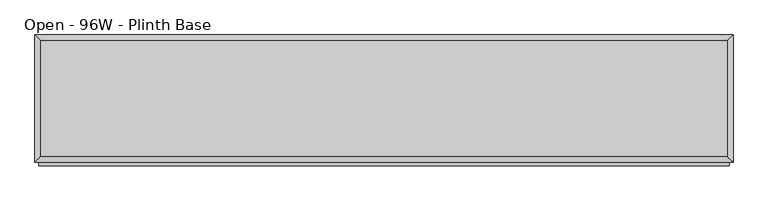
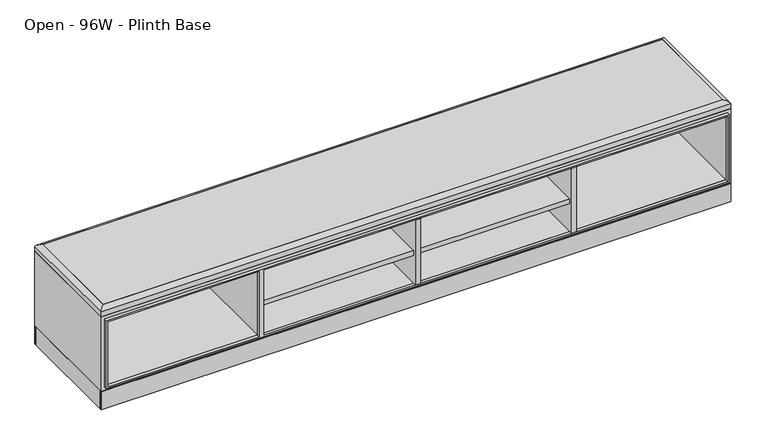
"""IFC4 building model written with IfcOpenShell, lengths in millimetres: furniture geometry, Steelcase Coalesse - Exponents - Seating - Bench : Open - 96W - Plinth Base."""

from ifc_helpers import new_model, si_unit, frame, origin, place, context, project, spatial, polyline, ellipse_curve, outline, extrude, faceted_brep, source, transform, mapped, element, save
from ifc_brep_helpers import plane_surface, cylinder_surface, advanced_brep


def open_96w_plinth_base_e9569392(model_context):
    return source(origin(), model_context, "Body", "SolidModel", [
        extrude(outline(polyline([(1209.548, 12.7), (623.824, 12.7), (623.824, 438.15), (1209.548, 438.15), (1209.548, 12.7)])), frame((0.0, 0.0, 215.9), z_axis=(0.0, 0.0, 1.0), x_axis=(1.0, 0.0, 0.0)), (0.0, 0.0, 1.0), 19.05),
        advanced_brep(
        [(0.0, 12.7, 406.6283237), (0.0, 12.7, 387.35), (2438.4, 12.7, 387.35), (2438.4, 12.7, 406.6283237), (2438.4, 457.2, 406.6283237), (2438.4, 457.2, 387.35), (0.0, 457.2, 387.35), (0.0, 457.2, 406.6283237), (2419.35, 31.75, 406.6283237), (2419.35, 438.15, 406.6283237), (19.05, 438.15, 406.6283237), (19.05, 31.75, 406.6283237), (2419.35, 438.15, 419.0696271), (2419.35, 31.75, 419.0696271), (19.05, 31.75, 419.0696271), (19.05, 438.15, 419.0696271)],
        [
            (0, 1),
            (1, 2),
            (2, 3),
            (3, 0),
            (4, 5),
            (5, 6),
            (6, 7),
            (7, 4),
            (8, 9),
            (9, 10),
            (10, 11),
            (11, 8),
            (0, 7),
            (6, 1),
            (5, 2),
            (4, 3),
            (12, 9),
            (8, 13),
            (13, 12),
            (13, 3, ellipse_curve(frame((2417.7973666, 33.3026334, 395.8870134), z_axis=(0.7071067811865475, 0.7071067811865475, 0.0), x_axis=(-0.7071067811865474, 0.7071067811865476, 0.0)), 32.8586138, 23.2345486)),
            (4, 12, ellipse_curve(frame((2417.7973666, 436.5973666, 395.8870134), z_axis=(0.7071067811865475, -0.7071067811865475, 0.0), x_axis=(0.7071067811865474, 0.7071067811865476, 0.0)), 32.8586138, 23.2345486)),
            (11, 14),
            (14, 13),
            (14, 0, ellipse_curve(frame((20.6026334, 33.3026334, 395.8870134), z_axis=(0.7071067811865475, -0.7071067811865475, 0.0), x_axis=(0.7071067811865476, 0.7071067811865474, 0.0)), 32.8586138, 23.2345486)),
            (10, 15),
            (15, 14),
            (15, 7, ellipse_curve(frame((20.6026334, 436.5973666, 395.8870134), z_axis=(-0.7071067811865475, -0.7071067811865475, 0.0), x_axis=(0.7071067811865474, -0.7071067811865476, 0.0)), 32.8586138, 23.2345486)),
            (12, 15),
        ],
        [
            plane_surface(frame((0.0, 12.7, 406.6283237), z_axis=(0.0, -1.0, 0.0), x_axis=(-1.0, 0.0, 0.0))),
            plane_surface(frame((0.0, 457.2, 406.6283237), z_axis=(0.0, 1.0, 0.0), x_axis=(1.0, 0.0, 0.0))),
            plane_surface(frame((2438.4, 12.7, 406.6283237), z_axis=(0.0, 0.0, 1.0), x_axis=(0.0, 1.0, 0.0))),
            plane_surface(frame((0.0, 12.7, 406.6283237), z_axis=(-1.0, 0.0, 1.677988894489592e-12), x_axis=(0.0, 1.0, 0.0))),
            plane_surface(frame((0.0, 12.7, 387.35), z_axis=(0.0, 0.0, -1.0), x_axis=(0.0, 1.0, 0.0))),
            plane_surface(frame((2438.4, 12.7, 387.35), z_axis=(1.0, 0.0, 0.0), x_axis=(0.0, 1.0, 0.0))),
            plane_surface(frame((2419.35, 438.15, 406.6284102), z_axis=(-1.0, 0.0, 0.0), x_axis=(0.0, -1.0, 0.0))),
            cylinder_surface(frame((2417.7973666, 457.2, 395.8870134), z_axis=(0.0, 1.0, 0.0), x_axis=(1.0, 0.0, 0.0)), 23.2345486),
            plane_surface(frame((2419.35, 31.75, 406.6284102), z_axis=(0.0, 1.0, 0.0), x_axis=(-1.0, 0.0, 0.0))),
            cylinder_surface(frame((2438.4, 33.3026334, 395.8870134), z_axis=(1.0, 0.0, 0.0), x_axis=(0.0, -1.0, 0.0)), 23.2345486),
            plane_surface(frame((19.05, 31.75, 406.6284102), z_axis=(1.0, 0.0, 0.0), x_axis=(0.0, 1.0, 0.0))),
            cylinder_surface(frame((20.6026334, 12.7, 395.8870134), z_axis=(0.0, -1.0, 0.0), x_axis=(-1.0, 0.0, 0.0)), 23.2345486),
            plane_surface(frame((19.05, 438.15, 406.6284102), z_axis=(0.0, -1.0, 0.0), x_axis=(1.0, 0.0, 0.0))),
            cylinder_surface(frame((0.0, 436.5973666, 395.8870134), z_axis=(-1.0, 0.0, 0.0), x_axis=(0.0, 1.0, 0.0)), 23.2345486),
        ],
        [
            (0, [[1, 2, 3, 4]]),
            (1, [[5, 6, 7, 8]]),
            (2, [[9, 10, 11, 12]]),
            (3, [[-1, 13, -7, 14]]),
            (4, [[-2, -14, -6, 15]]),
            (5, [[-3, -15, -5, 16]]),
            (6, [[17, -9, 18, 19]]),
            (7, [[-19, 20, -16, 21]]),
            (8, [[-18, -12, 22, 23]]),
            (9, [[-20, -23, 24, -4]]),
            (10, [[-22, -11, 25, 26]]),
            (11, [[-24, -26, 27, -13]]),
            (12, [[-17, 28, -25, -10]]),
            (13, [[-21, -8, -27, -28]]),
        ],
    ),
        extrude(outline(polyline([(1814.322, 12.7), (1228.598, 12.7), (1228.598, 438.15), (1814.322, 438.15), (1814.322, 12.7)])), frame((0.0, 0.0, 215.9), z_axis=(0.0, 0.0, 1.0), x_axis=(1.0, 0.0, 0.0)), (0.0, 0.0, 1.0), 19.05),
        extrude(outline(polyline([(1833.372, 438.15), (1833.372, 0.0), (1814.322, 0.0), (1814.322, 438.15), (1833.372, 438.15)])), frame((0.0, 0.0, 101.8032), z_axis=(0.0, 0.0, 1.0), x_axis=(1.0, 0.0, 0.0)), (0.0, 0.0, 1.0), 266.2936),
        extrude(outline(polyline([(1228.598, 438.15), (1228.598, 0.0), (1209.548, 0.0), (1209.548, 438.15), (1228.598, 438.15)])), frame((0.0, 0.0, 101.6), z_axis=(0.0, 0.0, 1.0), x_axis=(1.0, 0.0, 0.0)), (0.0, 0.0, 1.0), 266.7),
        faceted_brep([(2438.4, 12.7, 387.35), (0.0, 12.7, 387.35), (0.0, 12.7, 82.55), (2438.4, 12.7, 82.55), (19.05, 12.7, 368.0968), (604.774, 12.7, 368.0968), (604.774, 12.7, 101.8032), (19.05, 12.7, 101.8032), (623.824, 12.7, 368.0968), (2419.35, 12.7, 368.0968), (2419.35, 12.7, 101.8032), (623.824, 12.7, 101.8032), (2438.4, 457.2, 387.35), (2438.4, 457.2, 82.55), (0.0, 457.2, 82.55), (0.0, 457.2, 387.35), (604.774, 438.15, 368.0968), (19.05, 438.15, 368.0968), (19.05, 438.15, 101.8032), (604.774, 438.15, 101.8032), (2419.35, 438.15, 368.0968), (623.824, 438.15, 368.0968), (623.824, 438.15, 101.8032), (2419.35, 438.15, 101.8032)], [[[0, 1, 2, 3], [4, 5, 6, 7], [8, 9, 10, 11]], [[12, 13, 14, 15]], [[1, 0, 12, 15]], [[2, 1, 15, 14]], [[3, 2, 14, 13]], [[0, 3, 13, 12]], [[16, 17, 18, 19]], [[20, 21, 22, 23]], [[17, 16, 5, 4]], [[18, 17, 4, 7]], [[19, 18, 7, 6]], [[16, 19, 6, 5]], [[21, 20, 9, 8]], [[22, 21, 8, 11]], [[23, 22, 11, 10]], [[20, 23, 10, 9]]]),
        extrude(outline(polyline([(2438.4, 457.2), (2438.4, 450.85), (0.0, 450.85), (0.0, 457.2), (2438.4, 457.2)])), frame((0.0, 0.0, 6.35), z_axis=(0.0, 0.0, 1.0), x_axis=(1.0, 0.0, 0.0)), (0.0, 0.0, 1.0), 73.4568),
        extrude(outline(polyline([(6.31225, 19.05), (0.0, 19.05), (0.0, 450.85), (6.31225, 450.85), (6.31225, 19.05)])), frame((0.0, 0.0, 6.35), z_axis=(0.0, 0.0, 1.0), x_axis=(1.0, 0.0, 0.0)), (0.0, 0.0, 1.0), 73.4568),
        extrude(outline(polyline([(2438.4, 19.05), (2438.4, 12.7), (0.0, 12.7), (0.0, 19.05), (2438.4, 19.05)])), frame((0.0, 0.0, 6.35), z_axis=(0.0, 0.0, 1.0), x_axis=(1.0, 0.0, 0.0)), (0.0, 0.0, 1.0), 73.4568),
        extrude(outline(polyline([(2438.4, 19.05), (2432.01225, 19.05), (2432.01225, 450.85), (2438.4, 450.85), (2438.4, 19.05)])), frame((0.0, 0.0, 6.35), z_axis=(0.0, 0.0, 1.0), x_axis=(1.0, 0.0, 0.0)), (0.0, 0.0, 1.0), 73.4568),
        extrude(outline(polyline([(2433.53625, 452.374), (2433.53625, 17.526), (4.78825, 17.526), (4.78825, 452.374), (2433.53625, 452.374)]), holes=[polyline([(6.31225, 19.05), (2432.01225, 19.05), (2432.01225, 450.85), (6.31225, 450.85), (6.31225, 19.05)])]), frame((0.0, 0.0, 79.8068), z_axis=(0.0, 0.0, 1.0), x_axis=(1.0, 0.0, 0.0)), (0.0, 0.0, 1.0), 2.7432),
        extrude(outline(polyline([(2419.35, 31.75), (19.05, 31.75), (19.05, 438.15), (2419.35, 438.15), (2419.35, 31.75)])), frame((0.0, 0.0, 406.6283237), z_axis=(0.0, 0.0, 1.0), x_axis=(1.0, 0.0, 0.0)), (0.0, 0.0, 1.0), 12.4413034),
        extrude(outline(polyline([(374.4468, 2425.4206), (374.4468, 12.7), (95.4532, 12.7), (95.4532, 2425.4206), (374.4468, 2425.4206)]), holes=[polyline([(368.0968, 623.824), (368.0968, 2419.35), (101.8032, 2419.35), (101.8032, 623.824), (368.0968, 623.824)]), polyline([(368.0968, 604.774), (101.8032, 604.774), (101.8032, 19.05), (368.0968, 19.05), (368.0968, 604.774)])]), frame((0.0, 0.0, 0.0), z_axis=(0.0, 1.0, 0.0), x_axis=(0.0, 0.0, 1.0)), (0.0, 0.0, 1.0), 12.7),
    ])


if __name__ == "__main__":
    model = new_model("IFC4")
    model_context = context("Model", 3, world=origin())
    ifc_project = project(units=[si_unit("LENGTHUNIT", "METRE", prefix="MILLI")], contexts=[model_context])
    site = spatial("IfcSite", under=ifc_project)
    building = spatial("IfcBuilding", under=site)
    placement = place(None, origin())
    open_96w_plinth_base_shape = open_96w_plinth_base_e9569392(model_context)
    element("IfcFurniture", 1, ObjectType="Steelcase Coalesse - Exponents - Seating - Bench : Open - 96W - Plinth Base", at=placement, inside=building, context=model_context, shape_type="MappedRepresentation", body=[
        mapped(open_96w_plinth_base_shape, transform((0.0, 0.0, 0.0), x_axis=(1.0, 0.0, 0.0), y_axis=(0.0, 1.0, 0.0), z_axis=(0.0, 0.0, 1.0))),
    ])
    save(model, "model.ifc")
